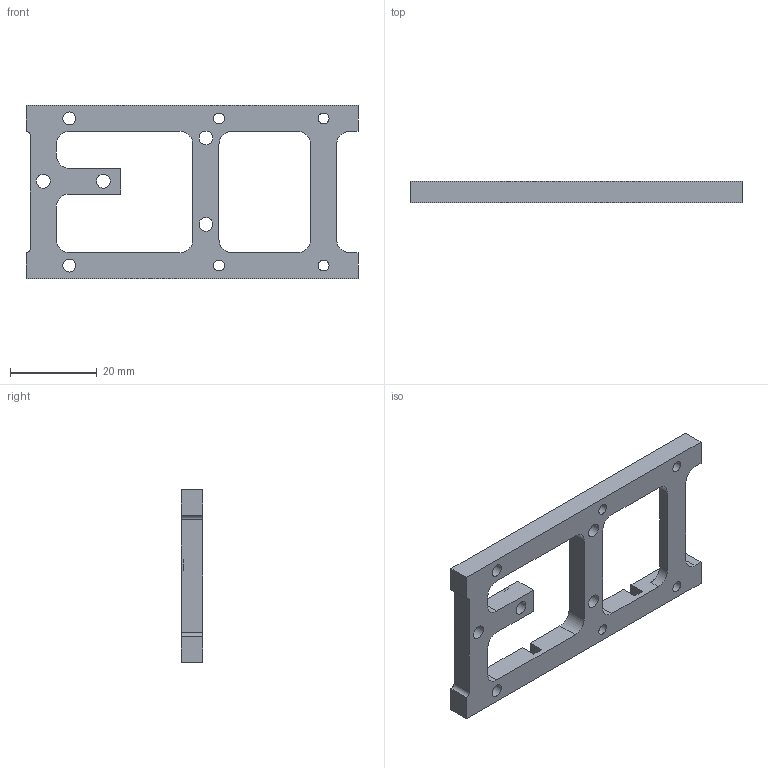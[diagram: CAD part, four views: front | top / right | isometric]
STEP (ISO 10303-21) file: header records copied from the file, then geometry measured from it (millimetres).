
FILE_DESCRIPTION(/* description */ ('','CAx-IF Rec.Pracs.---Representation and Presentation of Product Manufacturing Information (PMI)---4.0---2014-10-13'),/* implementation_level */ '2;1');
FILE_NAME(/* name */ 'a1_mini_dc_camera_p2_v8.step',/* time_stamp */ '2025-03-24T00:34:05+08:00',/* author */ (''),/* organization */ (''),/* preprocessor_version */ 'ST-DEVELOPER v20',/* originating_system */ 'Autodesk Translation Framework v13.20.0.188',/* authorisation */ '');
FILE_SCHEMA (('AP242_MANAGED_MODEL_BASED_3D_ENGINEERING_MIM_LF { 1 0 10303 442 1 1 4 }'));
Length unit declared in the file: millimetre
Products named in the file (1): a1_mini_dc_camera_p2
Bounding box: 76.75 x 5 x 40 mm (x, y, z)
Volume: 6777.5 mm3; surface area: 5742.5 mm2
Topology: 1 solids, 1 shells, 66 faces, 185 edges, 120 vertices
Faces by surface type: plane 36, cylinder 30
Full cylindrical faces by diameter (mm): 2.5 x4, 3 x2, 3.2 x4, 6 x2
Entity records: 2245 total; most frequent: DIRECTION 384, ORIENTED_EDGE 380, CARTESIAN_POINT 377, EDGE_CURVE 190, LINE 130, VECTOR 130, AXIS2_PLACEMENT_3D 127, VERTEX_POINT 120
